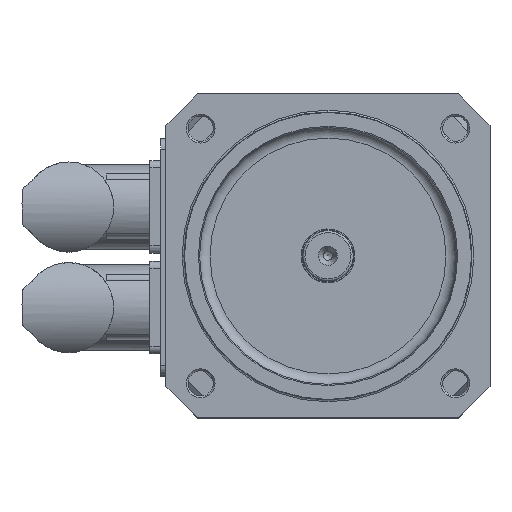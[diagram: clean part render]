
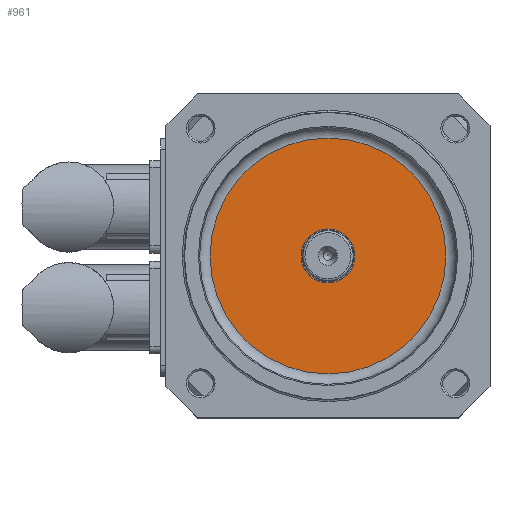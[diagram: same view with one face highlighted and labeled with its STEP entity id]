
A CAD part, top view. The second image highlights one B-rep face of the part: STEP entity #961.
In plain terms, the highlighted planar face has unit normal (0, 0, 1).
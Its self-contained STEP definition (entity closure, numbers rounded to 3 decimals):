
#159=PLANE('',#4794);
#961=ADVANCED_FACE('',(#1235),#159,.F.);
#1235=FACE_OUTER_BOUND('',#1502,.T.);
#1502=EDGE_LOOP('',(#2232));
#1821=CIRCLE('',#4793,32.76);
#2232=ORIENTED_EDGE('',*,*,#3997,.T.);
#3494=VERTEX_POINT('',#7039);
#3997=EDGE_CURVE('',#3494,#3494,#1821,.T.);
#4793=AXIS2_PLACEMENT_3D('',#7038,#5469,#5470);
#4794=AXIS2_PLACEMENT_3D('',#7040,#5471,#5472);
#5469=DIRECTION('',(0.,0.,1.));
#5470=DIRECTION('',(-1.,0.,0.));
#5471=DIRECTION('',(0.,0.,-1.));
#5472=DIRECTION('',(-1.,0.,0.));
#7038=CARTESIAN_POINT('',(0.,0.,29.));
#7039=CARTESIAN_POINT('',(-32.76,0.,29.));
#7040=CARTESIAN_POINT('',(0.,0.,29.));
